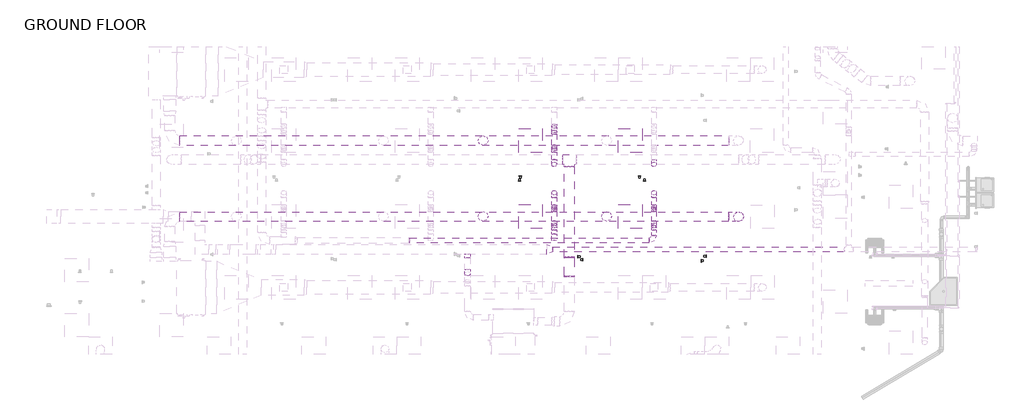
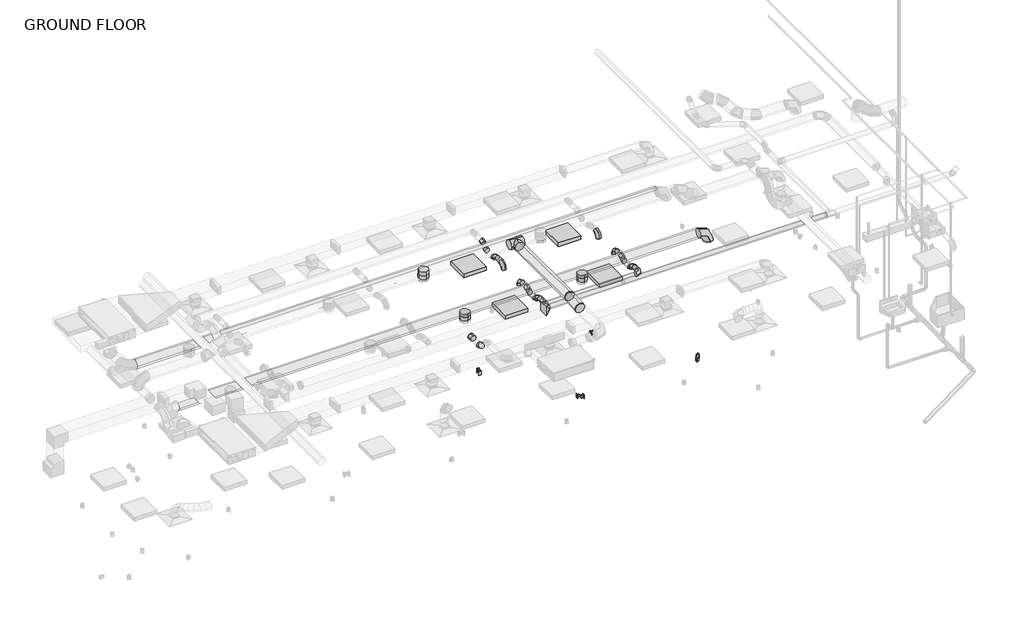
# One storey, part 5 of 20: 29 duct segments, 28 duct fittings, 8 proxies, 4 light fixtures.
"""IFC4 building model written with IfcOpenShell, lengths in millimetres."""

from ifc_helpers import new_model, si_unit, point, frame, frame_2d, origin, place, context, project, spatial, circle_curve, trimmed, segment, composite_curve, outline, extrude, transform, mapped, element, save
from components import duplex_receptacle_countertop_10251bba, rectangular_to_round_transition_angle_45_degree_43dd9c00, round_elbow_1_d_6fec3262, round_elbow_1_d_c80420c1, round_elbow_1_d_9a27e954, round_elbow_1_d_e3dc691b, round_elbow_1_d_e085309a, round_elbow_1_d_538d8ec8, round_elbow_1_d_400cd2ab, round_elbow_1_d_88736f48, round_takeoff_standard_161717b3, round_takeoff_standard_0a2b6d05, round_takeoff_standard_c386a54e, round_takeoff_standard_cae0fe22, round_tee_standard_9beeffc8, troffer_corner_insert_2x2_3lamp_e67c7f8f

model = new_model("IFC4")

# Units and contexts
model_context = context("Model", 3, world=origin())
ifc_project = project(units=[si_unit("LENGTHUNIT", "METRE", prefix="MILLI")], contexts=[model_context])

# Site, building, storey
site = spatial("IfcSite", under=ifc_project)
building = spatial("IfcBuilding", under=site)
storey = spatial("IfcBuildingStorey", under=building, Name="GROUND FLOOR", Elevation=30480.0)

# Proxies
placement = place(None, origin())
duplex_receptacle_countertop_shape = duplex_receptacle_countertop_10251bba(model_context)
element("IfcBuildingElementProxy", 1, Name="Duplex Receptacle : Standard", ObjectType="Duplex Receptacle : Standard", at=placement, inside=storey, context=model_context, shape_type="MappedRepresentation", body=[
    mapped(duplex_receptacle_countertop_shape, transform((2089.2187967, -1484.9054995, 30937.2), x_axis=(1.0, 0.0, 0.0), y_axis=(0.0, 0.0, 1.0), z_axis=(0.0, -1.0, 0.0))),
])
element("IfcBuildingElementProxy", 2, Name="Duplex Receptacle : Standard", ObjectType="Duplex Receptacle : Standard", at=placement, inside=storey, context=model_context, shape_type="MappedRepresentation", body=[
    mapped(duplex_receptacle_countertop_shape, transform((3591.8795393, -3432.7027596, 30937.2), x_axis=(0.0, -1.0, 0.0), y_axis=(0.0, 0.0, 1.0), z_axis=(-1.0, 0.0, 0.0))),
])
element("IfcBuildingElementProxy", 3, Name="Duplex Receptacle : Standard", ObjectType="Duplex Receptacle : Standard", at=placement, inside=storey, context=model_context, shape_type="MappedRepresentation", body=[
    mapped(duplex_receptacle_countertop_shape, transform((3715.7045393, -3509.8392868, 30937.2), x_axis=(0.0, 1.0, 0.0), y_axis=(0.0, 0.0, 1.0), z_axis=(1.0, 0.0, 0.0))),
])
element("IfcBuildingElementProxy", 4, Name="Duplex Receptacle : Standard", ObjectType="Duplex Receptacle : Standard", at=placement, inside=storey, context=model_context, shape_type="MappedRepresentation", body=[
    mapped(duplex_receptacle_countertop_shape, transform((5306.9139298, -1484.9054995, 30937.2), x_axis=(1.0, 0.0, 0.0), y_axis=(0.0, 0.0, 1.0), z_axis=(0.0, -1.0, 0.0))),
])
element("IfcBuildingElementProxy", 5, Name="Duplex Receptacle : Standard", ObjectType="Duplex Receptacle : Standard", at=placement, inside=storey, context=model_context, shape_type="MappedRepresentation", body=[
    mapped(duplex_receptacle_countertop_shape, transform((6763.7045393, -3542.8977984, 30937.2), x_axis=(0.0, -1.0, 0.0), y_axis=(0.0, 0.0, 1.0), z_axis=(-1.0, 0.0, 0.0))),
])
element("IfcBuildingElementProxy", 6, Name="Duplex Receptacle : Standard", ObjectType="Duplex Receptacle : Standard", at=placement, inside=storey, context=model_context, shape_type="MappedRepresentation", body=[
    mapped(duplex_receptacle_countertop_shape, transform((6887.5295393, -3421.6832557, 30937.2), x_axis=(0.0, 1.0, 0.0), y_axis=(0.0, 0.0, 1.0), z_axis=(1.0, 0.0, 0.0))),
])
element("IfcBuildingElementProxy", 7, Name="Duplex Receptacle : Standard", ObjectType="Duplex Receptacle : Standard", at=placement, inside=storey, context=model_context, shape_type="MappedRepresentation", body=[
    mapped(duplex_receptacle_countertop_shape, transform((5174.6798832, -1361.0804995, 30937.2), x_axis=(-1.0, 0.0, 0.0), y_axis=(0.0, 0.0, 1.0), z_axis=(0.0, 1.0, 0.0))),
])
element("IfcBuildingElementProxy", 8, Name="Duplex Receptacle : Standard", ObjectType="Duplex Receptacle : Standard", at=placement, inside=storey, context=model_context, shape_type="MappedRepresentation", body=[
    mapped(duplex_receptacle_countertop_shape, transform((2111.2578044, -1361.0804995, 30937.2), x_axis=(-1.0, 0.0, 0.0), y_axis=(0.0, 0.0, 1.0), z_axis=(0.0, 1.0, 0.0))),
])

# Duct fittings
rectangular_to_round_transition_angle_45_degree_shape = rectangular_to_round_transition_angle_45_degree_43dd9c00(model_context)
element("IfcDuctFitting", 9, ObjectType="Rectangular to Round Transition - Angle : 45 Degree", at=placement, inside=storey, context=model_context, shape_type="MappedRepresentation", body=[
    mapped(rectangular_to_round_transition_angle_45_degree_shape, transform((2787.255189, -3245.6216457, 33602.867541), x_axis=(1.0, 0.0, 0.0), y_axis=(0.0, 1.0, 0.0), z_axis=(0.0, 0.0, 1.0))),
])
round_elbow_1_d_shape = round_elbow_1_d_6fec3262(model_context)
element("IfcDuctFitting", 10, ObjectType="Round Elbow : 1 D", at=placement, inside=storey, context=model_context, shape_type="MappedRepresentation", body=[
    mapped(round_elbow_1_d_shape, transform((7725.7295393, -2407.6759121, 33617.69375), x_axis=(0.0, 0.0, 1.0), y_axis=(-1.0, 0.0, 0.0), z_axis=(0.0, -1.0, 0.0))),
])
round_elbow_1_d_2_shape = round_elbow_1_d_c80420c1(model_context)
element("IfcDuctFitting", 11, ObjectType="Round Elbow : 1 D", at=placement, inside=storey, context=model_context, shape_type="MappedRepresentation", body=[
    mapped(round_elbow_1_d_2_shape, transform((2982.2795393, -1056.2804995, 33477.2), x_axis=(0.0, -1.0, 0.0), y_axis=(0.0, 0.0, -1.0), z_axis=(1.0, 0.0, 0.0))),
])
element("IfcDuctFitting", 12, ObjectType="Round Elbow : 1 D", at=placement, inside=storey, context=model_context, shape_type="MappedRepresentation", body=[
    mapped(round_elbow_1_d_2_shape, transform((5547.6681472, -3019.0145579, 33528.0), x_axis=(1.0, 0.0, 0.0), y_axis=(0.0, 1.0, 0.0), z_axis=(0.0, 0.0, 1.0))),
])
element("IfcDuctFitting", 13, ObjectType="Round Elbow : 1 D", at=placement, inside=storey, context=model_context, shape_type="MappedRepresentation", body=[
    mapped(round_elbow_1_d_2_shape, transform((5547.6681472, -1789.7054995, 33477.2), x_axis=(0.0, 0.0, 1.0), y_axis=(0.0, -1.0, 0.0), z_axis=(1.0, 0.0, 0.0))),
])
element("IfcDuctFitting", 14, ObjectType="Round Elbow : 1 D", at=placement, inside=storey, context=model_context, shape_type="MappedRepresentation", body=[
    mapped(round_elbow_1_d_2_shape, transform((5547.6681472, -1056.2804995, 33477.2), x_axis=(0.0, -1.0, 0.0), y_axis=(0.0, 0.0, -1.0), z_axis=(1.0, 0.0, 0.0))),
])
round_elbow_1_d_3_shape = round_elbow_1_d_9a27e954(model_context)
element("IfcDuctFitting", 15, ObjectType="Round Elbow : 1 D", at=placement, inside=storey, context=model_context, shape_type="MappedRepresentation", body=[
    mapped(round_elbow_1_d_3_shape, transform((752.8182219, -3830.5749464, 33602.867541), x_axis=(0.0, -1.0, 0.0), y_axis=(0.0, 0.0, 1.0), z_axis=(-1.0, 0.0, 0.0))),
])
round_elbow_1_d_4_shape = round_elbow_1_d_e3dc691b(model_context)
element("IfcDuctFitting", 16, ObjectType="Round Elbow : 1 D", at=placement, inside=storey, context=model_context, shape_type="MappedRepresentation", body=[
    mapped(round_elbow_1_d_4_shape, transform((2982.2795393, -2571.0260053, 33410.2114474), x_axis=(0.0, 0.7071067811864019, -0.7071067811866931), y_axis=(0.0, 0.7071067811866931, 0.7071067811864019), z_axis=(1.0, 0.0, 0.0))),
])
element("IfcDuctFitting", 17, ObjectType="Round Elbow : 1 D", at=placement, inside=storey, context=model_context, shape_type="MappedRepresentation", body=[
    mapped(round_elbow_1_d_4_shape, transform((2982.2795393, -2688.8145579, 33528.0), x_axis=(0.0, -0.707106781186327, 0.7071067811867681), y_axis=(0.0, -0.7071067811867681, -0.707106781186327), z_axis=(1.0, 0.0, 0.0))),
])
element("IfcDuctFitting", 18, ObjectType="Round Elbow : 1 D", at=placement, inside=storey, context=model_context, shape_type="MappedRepresentation", body=[
    mapped(round_elbow_1_d_4_shape, transform((5547.6681472, -2571.0260053, 33410.2114474), x_axis=(0.0, 0.7071067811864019, -0.7071067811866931), y_axis=(0.0, 0.7071067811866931, 0.7071067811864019), z_axis=(1.0, 0.0, 0.0))),
])
element("IfcDuctFitting", 19, ObjectType="Round Elbow : 1 D", at=placement, inside=storey, context=model_context, shape_type="MappedRepresentation", body=[
    mapped(round_elbow_1_d_4_shape, transform((5547.6681472, -2688.8145579, 33528.0), x_axis=(0.0, -0.7071067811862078, 0.7071067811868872), y_axis=(0.0, -0.7071067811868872, -0.7071067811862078), z_axis=(1.0, 0.0, 0.0))),
])
round_elbow_1_d_5_shape = round_elbow_1_d_e085309a(model_context)
element("IfcDuctFitting", 20, ObjectType="Round Elbow : 1 D", at=placement, inside=storey, context=model_context, shape_type="MappedRepresentation", body=[
    mapped(round_elbow_1_d_5_shape, transform((3373.2082034, -3453.3930718, 33883.6), x_axis=(0.0, -1.0, 0.0), y_axis=(0.0, 0.0, -1.0), z_axis=(1.0, 0.0, 0.0))),
])
element("IfcDuctFitting", 21, ObjectType="Round Elbow : 1 D", at=placement, inside=storey, context=model_context, shape_type="MappedRepresentation", body=[
    mapped(round_elbow_1_d_5_shape, transform((3373.2082034, -3943.4269358, 33846.29375), x_axis=(0.0, 1.0, 0.0), y_axis=(0.0, 0.0, 1.0), z_axis=(1.0, 0.0, 0.0))),
])
round_elbow_1_d_6_shape = round_elbow_1_d_538d8ec8(model_context)
element("IfcDuctFitting", 22, ObjectType="Round Elbow : 1 D", at=placement, inside=storey, context=model_context, shape_type="MappedRepresentation", body=[
    mapped(round_elbow_1_d_6_shape, transform((2982.2795393, -703.4357216, 33477.2), x_axis=(0.0, 1.0, 0.0), y_axis=(0.0, 0.0, -1.0), z_axis=(-1.0, 0.0, 0.0))),
])
element("IfcDuctFitting", 23, ObjectType="Round Elbow : 1 D", at=placement, inside=storey, context=model_context, shape_type="MappedRepresentation", body=[
    mapped(round_elbow_1_d_6_shape, transform((2982.2795393, -599.403412, 33404.3557926), x_axis=(0.0, 0.8191520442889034, -0.5735764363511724), y_axis=(0.0, 0.5735764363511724, 0.8191520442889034), z_axis=(1.0, 0.0, 0.0))),
])
element("IfcDuctFitting", 24, ObjectType="Round Elbow : 1 D", at=placement, inside=storey, context=model_context, shape_type="MappedRepresentation", body=[
    mapped(round_elbow_1_d_6_shape, transform((2982.2795393, -240.3054995, 33404.3557926), x_axis=(0.0, 1.0, 0.0), y_axis=(0.0, 0.0, 1.0), z_axis=(1.0, 0.0, 0.0))),
])
element("IfcDuctFitting", 25, ObjectType="Round Elbow : 1 D", at=placement, inside=storey, context=model_context, shape_type="MappedRepresentation", body=[
    mapped(round_elbow_1_d_6_shape, transform((2982.2795393, -2238.2198452, 33410.2114474), x_axis=(0.0, -0.8191520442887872, -0.5735764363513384), y_axis=(0.0, -0.5735764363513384, 0.8191520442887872), z_axis=(-1.0, 0.0, 0.0))),
])
element("IfcDuctFitting", 26, ObjectType="Round Elbow : 1 D", at=placement, inside=storey, context=model_context, shape_type="MappedRepresentation", body=[
    mapped(round_elbow_1_d_6_shape, transform((2982.2795393, -63.7232711, 33528.0), x_axis=(0.0, 0.8191520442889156, 0.5735764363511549), y_axis=(0.0, 0.5735764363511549, -0.8191520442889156), z_axis=(-1.0, 0.0, 0.0))),
])
element("IfcDuctFitting", 27, ObjectType="Round Elbow : 1 D", at=placement, inside=storey, context=model_context, shape_type="MappedRepresentation", body=[
    mapped(round_elbow_1_d_6_shape, transform((5547.6681472, -2238.2198452, 33410.2114474), x_axis=(0.0, -0.8191520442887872, -0.5735764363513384), y_axis=(0.0, -0.5735764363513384, 0.8191520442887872), z_axis=(-1.0, 0.0, 0.0))),
])
element("IfcDuctFitting", 28, ObjectType="Round Elbow : 1 D", at=placement, inside=storey, context=model_context, shape_type="MappedRepresentation", body=[
    mapped(round_elbow_1_d_6_shape, transform((5547.6681472, -2142.5502773, 33477.2), x_axis=(0.0, 0.8191520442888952, 0.5735764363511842), y_axis=(0.0, 0.5735764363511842, -0.8191520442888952), z_axis=(-1.0, 0.0, 0.0))),
])
round_elbow_1_d_7_shape = round_elbow_1_d_400cd2ab(model_context)
element("IfcDuctFitting", 29, ObjectType="Round Elbow : 1 D", at=placement, inside=storey, context=model_context, shape_type="MappedRepresentation", body=[
    mapped(round_elbow_1_d_7_shape, transform((2982.2795393, -1789.7054995, 33477.2), x_axis=(0.0, 1.0, 0.0), y_axis=(0.0, 0.0, 1.0), z_axis=(1.0, 0.0, 0.0))),
])
round_elbow_1_d_8_shape = round_elbow_1_d_88736f48(model_context)
element("IfcDuctFitting", 30, ObjectType="Round Elbow : 1 D", at=placement, inside=storey, context=model_context, shape_type="MappedRepresentation", body=[
    mapped(round_elbow_1_d_8_shape, transform((2982.2795393, -2142.5502773, 33477.2), x_axis=(0.0, -1.0, 0.0), y_axis=(0.0, 0.0, 1.0), z_axis=(-1.0, 0.0, 0.0))),
])
round_takeoff_standard_shape = round_takeoff_standard_161717b3(model_context)
element("IfcDuctFitting", 31, ObjectType="Round Takeoff : Standard", at=placement, inside=storey, context=model_context, shape_type="MappedRepresentation", body=[
    mapped(round_takeoff_standard_shape, transform((1153.4795393, -2399.3054995, 33490.69375), x_axis=(0.0, 0.0, -1.0), y_axis=(-1.0, 0.0, 0.0), z_axis=(0.0, 1.0, 0.0))),
])
element("IfcDuctFitting", 32, ObjectType="Round Takeoff : Standard", at=placement, inside=storey, context=model_context, shape_type="MappedRepresentation", body=[
    mapped(round_takeoff_standard_shape, transform((4328.4681472, -2399.3054995, 33490.969892), x_axis=(0.0, 0.0, -1.0), y_axis=(-1.0, 0.0, 0.0), z_axis=(0.0, 1.0, 0.0))),
])
round_takeoff_standard_2_shape = round_takeoff_standard_0a2b6d05(model_context)
element("IfcDuctFitting", 33, ObjectType="Round Takeoff : Standard", at=placement, inside=storey, context=model_context, shape_type="MappedRepresentation", body=[
    mapped(round_takeoff_standard_2_shape, transform((752.8182219, -3372.6216457, 33602.867541), x_axis=(0.0, -1.0, 0.0), y_axis=(1.0, 0.0, 0.0), z_axis=(0.0, 0.0, 1.0))),
])
round_takeoff_standard_3_shape = round_takeoff_standard_c386a54e(model_context)
element("IfcDuctFitting", 34, ObjectType="Round Takeoff : Standard", at=placement, inside=storey, context=model_context, shape_type="MappedRepresentation", body=[
    mapped(round_takeoff_standard_3_shape, transform((1153.4795393, -446.6804995, 33490.69375), x_axis=(0.0, 0.0, -1.0), y_axis=(-1.0, 0.0, 0.0), z_axis=(0.0, 1.0, 0.0))),
])
round_takeoff_standard_4_shape = round_takeoff_standard_cae0fe22(model_context)
element("IfcDuctFitting", 35, ObjectType="Round Takeoff : Standard", at=placement, inside=storey, context=model_context, shape_type="MappedRepresentation", body=[
    mapped(round_takeoff_standard_4_shape, transform((2982.2795393, -2955.5145579, 33528.0), x_axis=(0.0, 1.0, 0.0), y_axis=(1.0, 0.0, 0.0), z_axis=(0.0, 0.0, -1.0))),
])
round_tee_standard_shape = round_tee_standard_9beeffc8(model_context)
element("IfcDuctFitting", 36, ObjectType="Round Tee : Standard", at=placement, inside=storey, context=model_context, shape_type="MappedRepresentation", body=[
    mapped(round_tee_standard_shape, transform((3373.2082034, -932.4554995, 33883.6), x_axis=(1.0, 0.0, 0.0), y_axis=(0.0, 1.0, 0.0), z_axis=(0.0, 0.0, 1.0))),
])

# Duct segments
element("IfcDuctSegment", 37, ObjectType="Taps / Short Radius", at=placement, inside=storey, context=model_context, shape_type="SweptSolid", body=[
    extrude(outline(composite_curve([segment(trimmed(circle_curve(frame_2d((33883.6, 3373.2082034)), 127.0), [point((33883.6, 3500.2082034))], [point((34010.6, 3373.2082034))], False, "CARTESIAN"), True, "CONTINUOUS"), segment(trimmed(circle_curve(frame_2d((33883.6, 3373.2082034)), 127.0), [point((34010.6, 3373.2082034))], [point((33883.6, 3246.2082034))], False, "CARTESIAN"), True, "CONTINUOUS"), segment(trimmed(circle_curve(frame_2d((33883.6, 3373.2082034)), 127.0), [point((33883.6, 3246.2082034))], [point((33756.6, 3373.2082034))], False, "CARTESIAN"), True, "CONTINUOUS"), segment(trimmed(circle_curve(frame_2d((33883.6, 3373.2082034)), 127.0), [point((33756.6, 3373.2082034))], [point((33883.6, 3500.2082034))], False, "CARTESIAN"), True, "CONTINUOUS")], self_intersect=False)), frame((0.0, -3443.7385377, 0.0), z_axis=(0.0, 1.0, 0.0), x_axis=(0.0, 0.0, 1.0)), (0.0, 0.0, 1.0), 2333.4830382),
])
element("IfcDuctSegment", 38, ObjectType="Taps / Short Radius", at=placement, inside=storey, context=model_context, shape_type="SweptSolid", body=[
    extrude(outline(composite_curve([segment(trimmed(circle_curve(frame_2d((1153.4795393, -2399.3054995)), 127.0), [point((1026.4795393, -2399.3054995))], [point((1153.4795393, -2272.3054995))], False, "CARTESIAN"), True, "CONTINUOUS"), segment(trimmed(circle_curve(frame_2d((1153.4795393, -2399.3054995)), 127.0), [point((1153.4795393, -2272.3054995))], [point((1280.4795393, -2399.3054995))], False, "CARTESIAN"), True, "CONTINUOUS"), segment(trimmed(circle_curve(frame_2d((1153.4795393, -2399.3054995)), 127.0), [point((1280.4795393, -2399.3054995))], [point((1153.4795393, -2526.3054995))], False, "CARTESIAN"), True, "CONTINUOUS"), segment(trimmed(circle_curve(frame_2d((1153.4795393, -2399.3054995)), 127.0), [point((1153.4795393, -2526.3054995))], [point((1026.4795393, -2399.3054995))], False, "CARTESIAN"), True, "CONTINUOUS")], self_intersect=False)), frame((0.0, 0.0, 33324.8), z_axis=(0.0, 0.0, 1.0), x_axis=(1.0, 0.0, 0.0)), (0.0, 0.0, 1.0), 64.29375),
])
element("IfcDuctSegment", 39, ObjectType="Taps / Short Radius", at=placement, inside=storey, context=model_context, shape_type="SweptSolid", body=[
    extrude(outline(composite_curve([segment(trimmed(circle_curve(frame_2d((4328.4681472, -2399.3054995)), 127.0), [point((4201.4681472, -2399.3054995))], [point((4328.4681472, -2272.3054995))], False, "CARTESIAN"), True, "CONTINUOUS"), segment(trimmed(circle_curve(frame_2d((4328.4681472, -2399.3054995)), 127.0), [point((4328.4681472, -2272.3054995))], [point((4455.4681472, -2399.3054995))], False, "CARTESIAN"), True, "CONTINUOUS"), segment(trimmed(circle_curve(frame_2d((4328.4681472, -2399.3054995)), 127.0), [point((4455.4681472, -2399.3054995))], [point((4328.4681472, -2526.3054995))], False, "CARTESIAN"), True, "CONTINUOUS"), segment(trimmed(circle_curve(frame_2d((4328.4681472, -2399.3054995)), 127.0), [point((4328.4681472, -2526.3054995))], [point((4201.4681472, -2399.3054995))], False, "CARTESIAN"), True, "CONTINUOUS")], self_intersect=False)), frame((0.0, 0.0, 33324.8), z_axis=(0.0, 0.0, 1.0), x_axis=(1.0, 0.0, 0.0)), (0.0, 0.0, 1.0), 64.569892),
])
element("IfcDuctSegment", 40, ObjectType="Taps / Short Radius", at=placement, inside=storey, context=model_context, shape_type="SweptSolid", body=[
    extrude(outline(composite_curve([segment(trimmed(circle_curve(frame_2d((-2407.6759121, 33617.69375)), 127.0), [point((-2280.6759121, 33617.69375))], [point((-2407.6759121, 33490.69375))], False, "CARTESIAN"), True, "CONTINUOUS"), segment(trimmed(circle_curve(frame_2d((-2407.6759121, 33617.69375)), 127.0), [point((-2407.6759121, 33490.69375))], [point((-2534.6759121, 33617.69375))], False, "CARTESIAN"), True, "CONTINUOUS"), segment(trimmed(circle_curve(frame_2d((-2407.6759121, 33617.69375)), 127.0), [point((-2534.6759121, 33617.69375))], [point((-2407.6759121, 33744.69375))], False, "CARTESIAN"), True, "CONTINUOUS"), segment(trimmed(circle_curve(frame_2d((-2407.6759121, 33617.69375)), 127.0), [point((-2407.6759121, 33744.69375))], [point((-2280.6759121, 33617.69375))], False, "CARTESIAN"), True, "CONTINUOUS")], self_intersect=False)), frame((-6651.278652, 0.0, 0.0), z_axis=(1.0, 0.0, 0.0), x_axis=(0.0, 1.0, 0.0)), (0.0, 0.0, 1.0), 14123.0081913),
])
element("IfcDuctSegment", 41, ObjectType="Taps / Short Radius", at=placement, inside=storey, context=model_context, shape_type="SweptSolid", body=[
    extrude(outline(composite_curve([segment(trimmed(circle_curve(frame_2d((7725.7295393, -2407.6759121)), 127.0), [point((7725.7295393, -2280.6759121))], [point((7852.7295393, -2407.6759121))], False, "CARTESIAN"), True, "CONTINUOUS"), segment(trimmed(circle_curve(frame_2d((7725.7295393, -2407.6759121)), 127.0), [point((7852.7295393, -2407.6759121))], [point((7725.7295393, -2534.6759121))], False, "CARTESIAN"), True, "CONTINUOUS"), segment(trimmed(circle_curve(frame_2d((7725.7295393, -2407.6759121)), 127.0), [point((7725.7295393, -2534.6759121))], [point((7598.7295393, -2407.6759121))], False, "CARTESIAN"), True, "CONTINUOUS"), segment(trimmed(circle_curve(frame_2d((7725.7295393, -2407.6759121)), 127.0), [point((7598.7295393, -2407.6759121))], [point((7725.7295393, -2280.6759121))], False, "CARTESIAN"), True, "CONTINUOUS")], self_intersect=False)), frame((0.0, 0.0, 33324.8), z_axis=(0.0, 0.0, 1.0), x_axis=(1.0, 0.0, 0.0)), (0.0, 0.0, 1.0), 38.89375),
])
element("IfcDuctSegment", 42, ObjectType="Taps / Short Radius", at=placement, inside=storey, context=model_context, shape_type="SweptSolid", body=[
    extrude(outline(composite_curve([segment(trimmed(circle_curve(frame_2d((-446.6804995, 33617.69375)), 127.0), [point((-319.6804995, 33617.69375))], [point((-446.6804995, 33490.69375))], False, "CARTESIAN"), True, "CONTINUOUS"), segment(trimmed(circle_curve(frame_2d((-446.6804995, 33617.69375)), 127.0), [point((-446.6804995, 33490.69375))], [point((-573.6804995, 33617.69375))], False, "CARTESIAN"), True, "CONTINUOUS"), segment(trimmed(circle_curve(frame_2d((-446.6804995, 33617.69375)), 127.0), [point((-573.6804995, 33617.69375))], [point((-446.6804995, 33744.69375))], False, "CARTESIAN"), True, "CONTINUOUS"), segment(trimmed(circle_curve(frame_2d((-446.6804995, 33617.69375)), 127.0), [point((-446.6804995, 33744.69375))], [point((-319.6804995, 33617.69375))], False, "CARTESIAN"), True, "CONTINUOUS")], self_intersect=False)), frame((-6653.4143044, 0.0, 0.0), z_axis=(1.0, 0.0, 0.0), x_axis=(0.0, 1.0, 0.0)), (0.0, 0.0, 1.0), 14118.6814771),
])
element("IfcDuctSegment", 43, ObjectType="Taps / Short Radius", at=placement, inside=storey, context=model_context, shape_type="SweptSolid", body=[
    extrude(outline(composite_curve([segment(trimmed(circle_curve(frame_2d((4328.4681472, -446.6804995)), 127.0), [point((4201.4681472, -446.6804995))], [point((4328.4681472, -319.6804995))], False, "CARTESIAN"), True, "CONTINUOUS"), segment(trimmed(circle_curve(frame_2d((4328.4681472, -446.6804995)), 127.0), [point((4328.4681472, -319.6804995))], [point((4455.4681472, -446.6804995))], False, "CARTESIAN"), True, "CONTINUOUS"), segment(trimmed(circle_curve(frame_2d((4328.4681472, -446.6804995)), 127.0), [point((4455.4681472, -446.6804995))], [point((4328.4681472, -573.6804995))], False, "CARTESIAN"), True, "CONTINUOUS"), segment(trimmed(circle_curve(frame_2d((4328.4681472, -446.6804995)), 127.0), [point((4328.4681472, -573.6804995))], [point((4201.4681472, -446.6804995))], False, "CARTESIAN"), True, "CONTINUOUS")], self_intersect=False)), frame((0.0, 0.0, 33324.8), z_axis=(0.0, 0.0, 1.0), x_axis=(1.0, 0.0, 0.0)), (0.0, 0.0, 1.0), 64.29375),
])
element("IfcDuctSegment", 44, ObjectType="Taps / Short Radius", at=placement, inside=storey, context=model_context, shape_type="SweptSolid", body=[
    extrude(outline(composite_curve([segment(trimmed(circle_curve(frame_2d((1153.4795393, -446.6804995)), 127.0), [point((1026.4795393, -446.6804995))], [point((1153.4795393, -319.6804995))], False, "CARTESIAN"), True, "CONTINUOUS"), segment(trimmed(circle_curve(frame_2d((1153.4795393, -446.6804995)), 127.0), [point((1153.4795393, -319.6804995))], [point((1280.4795393, -446.6804995))], False, "CARTESIAN"), True, "CONTINUOUS"), segment(trimmed(circle_curve(frame_2d((1153.4795393, -446.6804995)), 127.0), [point((1280.4795393, -446.6804995))], [point((1153.4795393, -573.6804995))], False, "CARTESIAN"), True, "CONTINUOUS"), segment(trimmed(circle_curve(frame_2d((1153.4795393, -446.6804995)), 127.0), [point((1153.4795393, -573.6804995))], [point((1026.4795393, -446.6804995))], False, "CARTESIAN"), True, "CONTINUOUS")], self_intersect=False)), frame((0.0, 0.0, 33324.8), z_axis=(0.0, 0.0, 1.0), x_axis=(1.0, 0.0, 0.0)), (0.0, 0.0, 1.0), 64.29375),
])
element("IfcDuctSegment", 45, ObjectType="Taps / Short Radius", at=placement, inside=storey, context=model_context, shape_type="SweptSolid", body=[
    extrude(outline(composite_curve([segment(trimmed(circle_curve(frame_2d((-3245.6216457, 33602.867541)), 63.5), [point((-3309.1216457, 33602.867541))], [point((-3245.6216457, 33666.367541))], False, "CARTESIAN"), True, "CONTINUOUS"), segment(trimmed(circle_curve(frame_2d((-3245.6216457, 33602.867541)), 63.5), [point((-3245.6216457, 33666.367541))], [point((-3182.1216457, 33602.867541))], False, "CARTESIAN"), True, "CONTINUOUS"), segment(trimmed(circle_curve(frame_2d((-3245.6216457, 33602.867541)), 63.5), [point((-3182.1216457, 33602.867541))], [point((-3245.6216457, 33539.367541))], False, "CARTESIAN"), True, "CONTINUOUS"), segment(trimmed(circle_curve(frame_2d((-3245.6216457, 33602.867541)), 63.5), [point((-3245.6216457, 33539.367541))], [point((-3309.1216457, 33602.867541))], False, "CARTESIAN"), True, "CONTINUOUS")], self_intersect=False)), frame((2940.5577502, 0.0, 0.0), z_axis=(1.0, 0.0, 0.0), x_axis=(0.0, 1.0, 0.0)), (0.0, 0.0, 1.0), 7505.7),
])
element("IfcDuctSegment", 46, ObjectType="Taps / Short Radius", at=placement, inside=storey, context=model_context, shape_type="SweptSolid", body=[
    extrude(outline(composite_curve([segment(trimmed(circle_curve(frame_2d((0.0, -127.0)), 127.0), [point((-127.0, -127.0))], [point((0.0, 0.0))], False, "CARTESIAN"), True, "CONTINUOUS"), segment(trimmed(circle_curve(frame_2d((0.0, -127.0)), 127.0), [point((0.0, 0.0))], [point((127.0, -127.0))], False, "CARTESIAN"), True, "CONTINUOUS"), segment(trimmed(circle_curve(frame_2d((0.0, -127.0)), 127.0), [point((127.0, -127.0))], [point((0.0, -254.0))], False, "CARTESIAN"), True, "CONTINUOUS"), segment(trimmed(circle_curve(frame_2d((0.0, -127.0)), 127.0), [point((0.0, -254.0))], [point((-127.0, -127.0))], False, "CARTESIAN"), True, "CONTINUOUS")], self_intersect=False)), frame((3373.2082034, -3924.1596527, 33720.3930676), z_axis=(0.0, 0.9971146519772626, 0.07591028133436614), x_axis=(1.0, 0.0, 0.0)), (0.0, 0.0, 1.0), 472.1428056),
])
element("IfcDuctSegment", 47, ObjectType="Taps / Short Radius", at=placement, inside=storey, context=model_context, shape_type="SweptSolid", body=[
    extrude(outline(composite_curve([segment(trimmed(circle_curve(frame_2d((-3019.0145579, 33528.0)), 63.5), [point((-2955.5145579, 33528.0))], [point((-3019.0145579, 33464.5))], False, "CARTESIAN"), True, "CONTINUOUS"), segment(trimmed(circle_curve(frame_2d((-3019.0145579, 33528.0)), 63.5), [point((-3019.0145579, 33464.5))], [point((-3082.5145579, 33528.0))], False, "CARTESIAN"), True, "CONTINUOUS"), segment(trimmed(circle_curve(frame_2d((-3019.0145579, 33528.0)), 63.5), [point((-3082.5145579, 33528.0))], [point((-3019.0145579, 33591.5))], False, "CARTESIAN"), True, "CONTINUOUS"), segment(trimmed(circle_curve(frame_2d((-3019.0145579, 33528.0)), 63.5), [point((-3019.0145579, 33591.5))], [point((-2955.5145579, 33528.0))], False, "CARTESIAN"), True, "CONTINUOUS")], self_intersect=False)), frame((-731.976464, 0.0, 0.0), z_axis=(1.0, 0.0, 0.0), x_axis=(0.0, 1.0, 0.0)), (0.0, 0.0, 1.0), 6152.6446112),
])
element("IfcDuctSegment", 48, ObjectType="Taps / Short Radius", at=placement, inside=storey, context=model_context, shape_type="SweptSolid", body=[
    extrude(outline(composite_curve([segment(trimmed(circle_curve(frame_2d((2982.2795393, -1056.2804995)), 63.5), [point((2918.7795393, -1056.2804995))], [point((2982.2795393, -992.7804995))], False, "CARTESIAN"), True, "CONTINUOUS"), segment(trimmed(circle_curve(frame_2d((2982.2795393, -1056.2804995)), 63.5), [point((2982.2795393, -992.7804995))], [point((3045.7795393, -1056.2804995))], False, "CARTESIAN"), True, "CONTINUOUS"), segment(trimmed(circle_curve(frame_2d((2982.2795393, -1056.2804995)), 63.5), [point((3045.7795393, -1056.2804995))], [point((2982.2795393, -1119.7804995))], False, "CARTESIAN"), True, "CONTINUOUS"), segment(trimmed(circle_curve(frame_2d((2982.2795393, -1056.2804995)), 63.5), [point((2982.2795393, -1119.7804995))], [point((2918.7795393, -1056.2804995))], False, "CARTESIAN"), True, "CONTINUOUS")], self_intersect=False)), frame((0.0, 0.0, 33324.8), z_axis=(0.0, 0.0, 1.0), x_axis=(1.0, 0.0, 0.0)), (0.0, 0.0, 1.0), 25.4),
])
element("IfcDuctSegment", 49, ObjectType="Taps / Short Radius", at=placement, inside=storey, context=model_context, shape_type="SweptSolid", body=[
    extrude(outline(composite_curve([segment(trimmed(circle_curve(frame_2d((33477.2, 2982.2795393)), 63.5), [point((33477.2, 3045.7795393))], [point((33540.7, 2982.2795393))], False, "CARTESIAN"), True, "CONTINUOUS"), segment(trimmed(circle_curve(frame_2d((33477.2, 2982.2795393)), 63.5), [point((33540.7, 2982.2795393))], [point((33477.2, 2918.7795393))], False, "CARTESIAN"), True, "CONTINUOUS"), segment(trimmed(circle_curve(frame_2d((33477.2, 2982.2795393)), 63.5), [point((33477.2, 2918.7795393))], [point((33413.7, 2982.2795393))], False, "CARTESIAN"), True, "CONTINUOUS"), segment(trimmed(circle_curve(frame_2d((33477.2, 2982.2795393)), 63.5), [point((33413.7, 2982.2795393))], [point((33477.2, 3045.7795393))], False, "CARTESIAN"), True, "CONTINUOUS")], self_intersect=False)), frame((0.0, -929.2804995, 0.0), z_axis=(0.0, 1.0, 0.0), x_axis=(0.0, 0.0, 1.0)), (0.0, 0.0, 1.0), 185.8018317),
])
element("IfcDuctSegment", 50, ObjectType="Taps / Short Radius", at=placement, inside=storey, context=model_context, shape_type="SweptSolid", body=[
    extrude(outline(composite_curve([segment(trimmed(circle_curve(frame_2d((0.0, -63.5)), 63.5), [point((63.5, -63.5))], [point((0.0, -127.0000001))], False, "CARTESIAN"), True, "CONTINUOUS"), segment(trimmed(circle_curve(frame_2d((0.0, -63.5)), 63.5), [point((0.0, -127.0000001))], [point((-63.5, -63.5))], False, "CARTESIAN"), True, "CONTINUOUS"), segment(trimmed(circle_curve(frame_2d((0.0, -63.5)), 63.5), [point((-63.5, -63.5))], [point((0.0, 0.0))], False, "CARTESIAN"), True, "CONTINUOUS"), segment(trimmed(circle_curve(frame_2d((0.0, -63.5)), 63.5), [point((0.0, 0.0))], [point((63.5, -63.5))], False, "CARTESIAN"), True, "CONTINUOUS")], self_intersect=False)), frame((2982.2795393, -595.7825695, 33479.3396378), z_axis=(0.0, -0.8191520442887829, 0.5735764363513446), x_axis=(1.0, 0.0, 0.0)), (0.0, 0.0, 1.0), 46.9141076),
])
element("IfcDuctSegment", 51, ObjectType="Taps / Short Radius", at=placement, inside=storey, context=model_context, shape_type="SweptSolid", body=[
    extrude(outline(composite_curve([segment(trimmed(circle_curve(frame_2d((33404.3557926, 2982.2795393)), 63.5), [point((33404.3557926, 3045.7795393))], [point((33467.8557926, 2982.2795393))], False, "CARTESIAN"), True, "CONTINUOUS"), segment(trimmed(circle_curve(frame_2d((33404.3557926, 2982.2795393)), 63.5), [point((33467.8557926, 2982.2795393))], [point((33404.3557926, 2918.7795393))], False, "CARTESIAN"), True, "CONTINUOUS"), segment(trimmed(circle_curve(frame_2d((33404.3557926, 2982.2795393)), 63.5), [point((33404.3557926, 2918.7795393))], [point((33340.8557926, 2982.2795393))], False, "CARTESIAN"), True, "CONTINUOUS"), segment(trimmed(circle_curve(frame_2d((33404.3557926, 2982.2795393)), 63.5), [point((33340.8557926, 2982.2795393))], [point((33404.3557926, 3045.7795393))], False, "CARTESIAN"), True, "CONTINUOUS")], self_intersect=False)), frame((0.0, -559.3604658, 0.0), z_axis=(0.0, 1.0, 0.0), x_axis=(0.0, 0.0, 1.0)), (0.0, 0.0, 1.0), 279.0120202),
])
element("IfcDuctSegment", 52, ObjectType="Taps / Short Radius", at=placement, inside=storey, context=model_context, shape_type="SweptSolid", body=[
    extrude(outline(composite_curve([segment(trimmed(circle_curve(frame_2d((0.0, 63.5)), 63.5), [point((63.5, 63.5))], [point((0.0, 0.0))], False, "CARTESIAN"), True, "CONTINUOUS"), segment(trimmed(circle_curve(frame_2d((0.0, 63.5)), 63.5), [point((0.0, 0.0))], [point((-63.5, 63.5))], False, "CARTESIAN"), True, "CONTINUOUS"), segment(trimmed(circle_curve(frame_2d((0.0, 63.5)), 63.5), [point((-63.5, 63.5))], [point((0.0, 127.0000001))], False, "CARTESIAN"), True, "CONTINUOUS"), segment(trimmed(circle_curve(frame_2d((0.0, 63.5)), 63.5), [point((0.0, 127.0000001))], [point((63.5, 63.5))], False, "CARTESIAN"), True, "CONTINUOUS")], self_intersect=False)), frame((2982.2795393, -243.926342, 33479.3396378), z_axis=(0.0, 0.81915204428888, 0.5735764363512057), x_axis=(1.0, 0.0, 0.0)), (0.0, 0.0, 1.0), 135.4812048),
])
element("IfcDuctSegment", 53, ObjectType="Taps / Short Radius", at=placement, inside=storey, context=model_context, shape_type="SweptSolid", body=[
    extrude(outline(composite_curve([segment(trimmed(circle_curve(frame_2d((2982.2795393, -1789.7054995)), 63.5), [point((3045.7795393, -1789.7054995))], [point((2982.2795393, -1853.2054995))], False, "CARTESIAN"), True, "CONTINUOUS"), segment(trimmed(circle_curve(frame_2d((2982.2795393, -1789.7054995)), 63.5), [point((2982.2795393, -1853.2054995))], [point((2918.7795393, -1789.7054995))], False, "CARTESIAN"), True, "CONTINUOUS"), segment(trimmed(circle_curve(frame_2d((2982.2795393, -1789.7054995)), 63.5), [point((2918.7795393, -1789.7054995))], [point((2982.2795393, -1726.2054995))], False, "CARTESIAN"), True, "CONTINUOUS"), segment(trimmed(circle_curve(frame_2d((2982.2795393, -1789.7054995)), 63.5), [point((2982.2795393, -1726.2054995))], [point((3045.7795393, -1789.7054995))], False, "CARTESIAN"), True, "CONTINUOUS")], self_intersect=False)), frame((0.0, 0.0, 33324.8), z_axis=(0.0, 0.0, 1.0), x_axis=(1.0, 0.0, 0.0)), (0.0, 0.0, 1.0), 25.4),
])
element("IfcDuctSegment", 54, ObjectType="Taps / Short Radius", at=placement, inside=storey, context=model_context, shape_type="SweptSolid", body=[
    extrude(outline(composite_curve([segment(trimmed(circle_curve(frame_2d((33477.2, 2982.2795393)), 63.5), [point((33477.2, 2918.7795393))], [point((33413.7, 2982.2795393))], False, "CARTESIAN"), True, "CONTINUOUS"), segment(trimmed(circle_curve(frame_2d((33477.2, 2982.2795393)), 63.5), [point((33413.7, 2982.2795393))], [point((33477.2, 3045.7795393))], False, "CARTESIAN"), True, "CONTINUOUS"), segment(trimmed(circle_curve(frame_2d((33477.2, 2982.2795393)), 63.5), [point((33477.2, 3045.7795393))], [point((33540.7, 2982.2795393))], False, "CARTESIAN"), True, "CONTINUOUS"), segment(trimmed(circle_curve(frame_2d((33477.2, 2982.2795393)), 63.5), [point((33540.7, 2982.2795393))], [point((33477.2, 2918.7795393))], False, "CARTESIAN"), True, "CONTINUOUS")], self_intersect=False)), frame((0.0, -2102.5073311, 0.0), z_axis=(0.0, 1.0, 0.0), x_axis=(0.0, 0.0, 1.0)), (0.0, 0.0, 1.0), 185.8018317),
])
element("IfcDuctSegment", 55, ObjectType="Taps / Short Radius", at=placement, inside=storey, context=model_context, shape_type="SweptSolid", body=[
    extrude(outline(composite_curve([segment(trimmed(circle_curve(frame_2d((0.0, -63.5)), 63.5), [point((-63.5, -63.5))], [point((0.0, 0.0))], False, "CARTESIAN"), True, "CONTINUOUS"), segment(trimmed(circle_curve(frame_2d((0.0, -63.5)), 63.5), [point((0.0, 0.0))], [point((63.5, -63.5))], False, "CARTESIAN"), True, "CONTINUOUS"), segment(trimmed(circle_curve(frame_2d((0.0, -63.5)), 63.5), [point((63.5, -63.5))], [point((0.0, -127.0))], False, "CARTESIAN"), True, "CONTINUOUS"), segment(trimmed(circle_curve(frame_2d((0.0, -63.5)), 63.5), [point((0.0, -127.0))], [point((-63.5, -63.5))], False, "CARTESIAN"), True, "CONTINUOUS")], self_intersect=False)), frame((2982.2795393, -2168.9964802, 33381.162983), z_axis=(0.0, 0.819152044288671, 0.5735764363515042), x_axis=(1.0, 0.0, 0.0)), (0.0, 0.0, 1.0), 36.7050849),
])
element("IfcDuctSegment", 56, ObjectType="Taps / Short Radius", at=placement, inside=storey, context=model_context, shape_type="SweptSolid", body=[
    extrude(outline(composite_curve([segment(trimmed(circle_curve(frame_2d((33528.0, 2982.2795393)), 63.5), [point((33528.0, 2918.7795393))], [point((33464.5, 2982.2795393))], False, "CARTESIAN"), True, "CONTINUOUS"), segment(trimmed(circle_curve(frame_2d((33528.0, 2982.2795393)), 63.5), [point((33464.5, 2982.2795393))], [point((33528.0, 3045.7795393))], False, "CARTESIAN"), True, "CONTINUOUS"), segment(trimmed(circle_curve(frame_2d((33528.0, 2982.2795393)), 63.5), [point((33528.0, 3045.7795393))], [point((33591.5, 2982.2795393))], False, "CARTESIAN"), True, "CONTINUOUS"), segment(trimmed(circle_curve(frame_2d((33528.0, 2982.2795393)), 63.5), [point((33591.5, 2982.2795393))], [point((33528.0, 2918.7795393))], False, "CARTESIAN"), True, "CONTINUOUS")], self_intersect=False)), frame((0.0, -2853.9145579, 0.0), z_axis=(0.0, 1.0, 0.0), x_axis=(0.0, 0.0, 1.0)), (0.0, 0.0, 1.0), 112.4948776),
])
element("IfcDuctSegment", 57, ObjectType="Taps / Short Radius", at=placement, inside=storey, context=model_context, shape_type="SweptSolid", body=[
    extrude(outline(composite_curve([segment(trimmed(circle_curve(frame_2d((0.0, -63.5)), 63.5), [point((63.5, -63.5))], [point((0.0, -127.0))], False, "CARTESIAN"), True, "CONTINUOUS"), segment(trimmed(circle_curve(frame_2d((0.0, -63.5)), 63.5), [point((0.0, -127.0))], [point((-63.5, -63.5))], False, "CARTESIAN"), True, "CONTINUOUS"), segment(trimmed(circle_curve(frame_2d((0.0, -63.5)), 63.5), [point((-63.5, -63.5))], [point((0.0, 0.0))], False, "CARTESIAN"), True, "CONTINUOUS"), segment(trimmed(circle_curve(frame_2d((0.0, -63.5)), 63.5), [point((0.0, 0.0))], [point((63.5, -63.5))], False, "CARTESIAN"), True, "CONTINUOUS")], self_intersect=False)), frame((2982.2795393, -2563.3221635, 33492.3101668), z_axis=(0.0, -0.7071067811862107, 0.7071067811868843), x_axis=(1.0, 0.0, 0.0)), (0.0, 0.0, 1.0), 61.3679237),
])
element("IfcDuctSegment", 58, ObjectType="Taps / Short Radius", at=placement, inside=storey, context=model_context, shape_type="SweptSolid", body=[
    extrude(outline(composite_curve([segment(trimmed(circle_curve(frame_2d((33410.2114474, 2982.2795393)), 63.5), [point((33410.2114474, 2918.7795393))], [point((33346.7114474, 2982.2795393))], False, "CARTESIAN"), True, "CONTINUOUS"), segment(trimmed(circle_curve(frame_2d((33410.2114474, 2982.2795393)), 63.5), [point((33346.7114474, 2982.2795393))], [point((33410.2114474, 3045.7795393))], False, "CARTESIAN"), True, "CONTINUOUS"), segment(trimmed(circle_curve(frame_2d((33410.2114474, 2982.2795393)), 63.5), [point((33410.2114474, 3045.7795393))], [point((33473.7114474, 2982.2795393))], False, "CARTESIAN"), True, "CONTINUOUS"), segment(trimmed(circle_curve(frame_2d((33410.2114474, 2982.2795393)), 63.5), [point((33473.7114474, 2982.2795393))], [point((33410.2114474, 2918.7795393))], False, "CARTESIAN"), True, "CONTINUOUS")], self_intersect=False)), frame((0.0, -2518.4208829, 0.0), z_axis=(0.0, 1.0, 0.0), x_axis=(0.0, 0.0, 1.0)), (0.0, 0.0, 1.0), 240.1580915),
])
element("IfcDuctSegment", 59, ObjectType="Taps / Short Radius", at=placement, inside=storey, context=model_context, shape_type="SweptSolid", body=[
    extrude(outline(composite_curve([segment(trimmed(circle_curve(frame_2d((0.0, -63.5)), 63.5), [point((-63.5, -63.5))], [point((0.0, 0.0))], False, "CARTESIAN"), True, "CONTINUOUS"), segment(trimmed(circle_curve(frame_2d((0.0, -63.5)), 63.5), [point((0.0, 0.0))], [point((63.5, -63.5))], False, "CARTESIAN"), True, "CONTINUOUS"), segment(trimmed(circle_curve(frame_2d((0.0, -63.5)), 63.5), [point((63.5, -63.5))], [point((0.0, -127.0))], False, "CARTESIAN"), True, "CONTINUOUS"), segment(trimmed(circle_curve(frame_2d((0.0, -63.5)), 63.5), [point((0.0, -127.0))], [point((-63.5, -63.5))], False, "CARTESIAN"), True, "CONTINUOUS")], self_intersect=False)), frame((5547.6681472, -2168.9964802, 33381.162983), z_axis=(0.0, 0.8191520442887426, 0.5735764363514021), x_axis=(1.0, 0.0, 0.0)), (0.0, 0.0, 1.0), 36.7050849),
])
element("IfcDuctSegment", 60, ObjectType="Taps / Short Radius", at=placement, inside=storey, context=model_context, shape_type="SweptSolid", body=[
    extrude(outline(composite_curve([segment(trimmed(circle_curve(frame_2d((33528.0, 5547.6681472)), 63.5), [point((33528.0, 5484.1681472))], [point((33464.5, 5547.6681472))], False, "CARTESIAN"), True, "CONTINUOUS"), segment(trimmed(circle_curve(frame_2d((33528.0, 5547.6681472)), 63.5), [point((33464.5, 5547.6681472))], [point((33528.0, 5611.1681472))], False, "CARTESIAN"), True, "CONTINUOUS"), segment(trimmed(circle_curve(frame_2d((33528.0, 5547.6681472)), 63.5), [point((33528.0, 5611.1681472))], [point((33591.5, 5547.6681472))], False, "CARTESIAN"), True, "CONTINUOUS"), segment(trimmed(circle_curve(frame_2d((33528.0, 5547.6681472)), 63.5), [point((33591.5, 5547.6681472))], [point((33528.0, 5484.1681472))], False, "CARTESIAN"), True, "CONTINUOUS")], self_intersect=False)), frame((0.0, -2892.0145579, 0.0), z_axis=(0.0, 1.0, 0.0), x_axis=(0.0, 0.0, 1.0)), (0.0, 0.0, 1.0), 150.5948776),
])
element("IfcDuctSegment", 61, ObjectType="Taps / Short Radius", at=placement, inside=storey, context=model_context, shape_type="SweptSolid", body=[
    extrude(outline(composite_curve([segment(trimmed(circle_curve(frame_2d((0.0, -63.5)), 63.5), [point((63.5, -63.5))], [point((0.0, -127.0))], False, "CARTESIAN"), True, "CONTINUOUS"), segment(trimmed(circle_curve(frame_2d((0.0, -63.5)), 63.5), [point((0.0, -127.0))], [point((-63.5, -63.5))], False, "CARTESIAN"), True, "CONTINUOUS"), segment(trimmed(circle_curve(frame_2d((0.0, -63.5)), 63.5), [point((-63.5, -63.5))], [point((0.0, 0.0))], False, "CARTESIAN"), True, "CONTINUOUS"), segment(trimmed(circle_curve(frame_2d((0.0, -63.5)), 63.5), [point((0.0, 0.0))], [point((63.5, -63.5))], False, "CARTESIAN"), True, "CONTINUOUS")], self_intersect=False)), frame((5547.6681472, -2563.3221635, 33492.3101668), z_axis=(0.0, -0.7071067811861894, 0.7071067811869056), x_axis=(1.0, 0.0, 0.0)), (0.0, 0.0, 1.0), 61.3679237),
])
element("IfcDuctSegment", 62, ObjectType="Taps / Short Radius", at=placement, inside=storey, context=model_context, shape_type="SweptSolid", body=[
    extrude(outline(composite_curve([segment(trimmed(circle_curve(frame_2d((33410.2114474, 5547.6681472)), 63.5), [point((33410.2114474, 5484.1681472))], [point((33346.7114474, 5547.6681472))], False, "CARTESIAN"), True, "CONTINUOUS"), segment(trimmed(circle_curve(frame_2d((33410.2114474, 5547.6681472)), 63.5), [point((33346.7114474, 5547.6681472))], [point((33410.2114474, 5611.1681472))], False, "CARTESIAN"), True, "CONTINUOUS"), segment(trimmed(circle_curve(frame_2d((33410.2114474, 5547.6681472)), 63.5), [point((33410.2114474, 5611.1681472))], [point((33473.7114474, 5547.6681472))], False, "CARTESIAN"), True, "CONTINUOUS"), segment(trimmed(circle_curve(frame_2d((33410.2114474, 5547.6681472)), 63.5), [point((33473.7114474, 5547.6681472))], [point((33410.2114474, 5484.1681472))], False, "CARTESIAN"), True, "CONTINUOUS")], self_intersect=False)), frame((0.0, -2518.4208829, 0.0), z_axis=(0.0, 1.0, 0.0), x_axis=(0.0, 0.0, 1.0)), (0.0, 0.0, 1.0), 240.1580915),
])
element("IfcDuctSegment", 63, ObjectType="Taps / Short Radius", at=placement, inside=storey, context=model_context, shape_type="SweptSolid", body=[
    extrude(outline(composite_curve([segment(trimmed(circle_curve(frame_2d((33477.2, 5547.6681472)), 63.5), [point((33477.2, 5484.1681472))], [point((33413.7, 5547.6681472))], False, "CARTESIAN"), True, "CONTINUOUS"), segment(trimmed(circle_curve(frame_2d((33477.2, 5547.6681472)), 63.5), [point((33413.7, 5547.6681472))], [point((33477.2, 5611.1681472))], False, "CARTESIAN"), True, "CONTINUOUS"), segment(trimmed(circle_curve(frame_2d((33477.2, 5547.6681472)), 63.5), [point((33477.2, 5611.1681472))], [point((33540.7, 5547.6681472))], False, "CARTESIAN"), True, "CONTINUOUS"), segment(trimmed(circle_curve(frame_2d((33477.2, 5547.6681472)), 63.5), [point((33540.7, 5547.6681472))], [point((33477.2, 5484.1681472))], False, "CARTESIAN"), True, "CONTINUOUS")], self_intersect=False)), frame((0.0, -2102.5073311, 0.0), z_axis=(0.0, 1.0, 0.0), x_axis=(0.0, 0.0, 1.0)), (0.0, 0.0, 1.0), 185.8018317),
])
element("IfcDuctSegment", 64, ObjectType="Taps / Short Radius", at=placement, inside=storey, context=model_context, shape_type="SweptSolid", body=[
    extrude(outline(composite_curve([segment(trimmed(circle_curve(frame_2d((5547.6681472, -1789.7054995)), 63.5), [point((5484.1681472, -1789.7054995))], [point((5547.6681472, -1726.2054995))], False, "CARTESIAN"), True, "CONTINUOUS"), segment(trimmed(circle_curve(frame_2d((5547.6681472, -1789.7054995)), 63.5), [point((5547.6681472, -1726.2054995))], [point((5611.1681472, -1789.7054995))], False, "CARTESIAN"), True, "CONTINUOUS"), segment(trimmed(circle_curve(frame_2d((5547.6681472, -1789.7054995)), 63.5), [point((5611.1681472, -1789.7054995))], [point((5547.6681472, -1853.2054995))], False, "CARTESIAN"), True, "CONTINUOUS"), segment(trimmed(circle_curve(frame_2d((5547.6681472, -1789.7054995)), 63.5), [point((5547.6681472, -1853.2054995))], [point((5484.1681472, -1789.7054995))], False, "CARTESIAN"), True, "CONTINUOUS")], self_intersect=False)), frame((0.0, 0.0, 33324.8), z_axis=(0.0, 0.0, 1.0), x_axis=(1.0, 0.0, 0.0)), (0.0, 0.0, 1.0), 25.4),
])
element("IfcDuctSegment", 65, ObjectType="Taps / Short Radius", at=placement, inside=storey, context=model_context, shape_type="SweptSolid", body=[
    extrude(outline(composite_curve([segment(trimmed(circle_curve(frame_2d((5547.6681472, -1056.2804995)), 63.5), [point((5611.1681472, -1056.2804995))], [point((5547.6681472, -1119.7804995))], False, "CARTESIAN"), True, "CONTINUOUS"), segment(trimmed(circle_curve(frame_2d((5547.6681472, -1056.2804995)), 63.5), [point((5547.6681472, -1119.7804995))], [point((5484.1681472, -1056.2804995))], False, "CARTESIAN"), True, "CONTINUOUS"), segment(trimmed(circle_curve(frame_2d((5547.6681472, -1056.2804995)), 63.5), [point((5484.1681472, -1056.2804995))], [point((5547.6681472, -992.7804995))], False, "CARTESIAN"), True, "CONTINUOUS"), segment(trimmed(circle_curve(frame_2d((5547.6681472, -1056.2804995)), 63.5), [point((5547.6681472, -992.7804995))], [point((5611.1681472, -1056.2804995))], False, "CARTESIAN"), True, "CONTINUOUS")], self_intersect=False)), frame((0.0, 0.0, 33324.8), z_axis=(0.0, 0.0, 1.0), x_axis=(1.0, 0.0, 0.0)), (0.0, 0.0, 1.0), 25.4),
])

# Light fixtures
troffer_corner_insert_2x2_3lamp_shape = troffer_corner_insert_2x2_3lamp_e67c7f8f(model_context)
element("IfcLightFixture", 66, ObjectType="Troffer Corner Insert : 2x2 3Lamp", at=placement, inside=storey, context=model_context, shape_type="MappedRepresentation", body=[
    mapped(troffer_corner_insert_2x2_3lamp_shape, transform((2372.6795393, -446.6804995, 30784.8), x_axis=(1.0, 0.0, 0.0), y_axis=(0.0, 1.0, 0.0), z_axis=(0.0, 0.0, 1.0))),
])
element("IfcLightFixture", 67, ObjectType="Troffer Corner Insert : 2x2 3Lamp", at=placement, inside=storey, context=model_context, shape_type="MappedRepresentation", body=[
    mapped(troffer_corner_insert_2x2_3lamp_shape, transform((4938.0681472, -446.6804995, 30784.8), x_axis=(1.0, 0.0, 0.0), y_axis=(0.0, 1.0, 0.0), z_axis=(0.0, 0.0, 1.0))),
])
element("IfcLightFixture", 68, ObjectType="Troffer Corner Insert : 2x2 3Lamp", at=placement, inside=storey, context=model_context, shape_type="MappedRepresentation", body=[
    mapped(troffer_corner_insert_2x2_3lamp_shape, transform((2372.6795393, -2399.3054995, 30784.8), x_axis=(1.0, 0.0, 0.0), y_axis=(0.0, 1.0, 0.0), z_axis=(0.0, 0.0, 1.0))),
])
element("IfcLightFixture", 69, ObjectType="Troffer Corner Insert : 2x2 3Lamp", at=placement, inside=storey, context=model_context, shape_type="MappedRepresentation", body=[
    mapped(troffer_corner_insert_2x2_3lamp_shape, transform((4938.0681472, -2399.3054995, 30784.8), x_axis=(1.0, 0.0, 0.0), y_axis=(0.0, 1.0, 0.0), z_axis=(0.0, 0.0, 1.0))),
])

save(model, "model.ifc")
